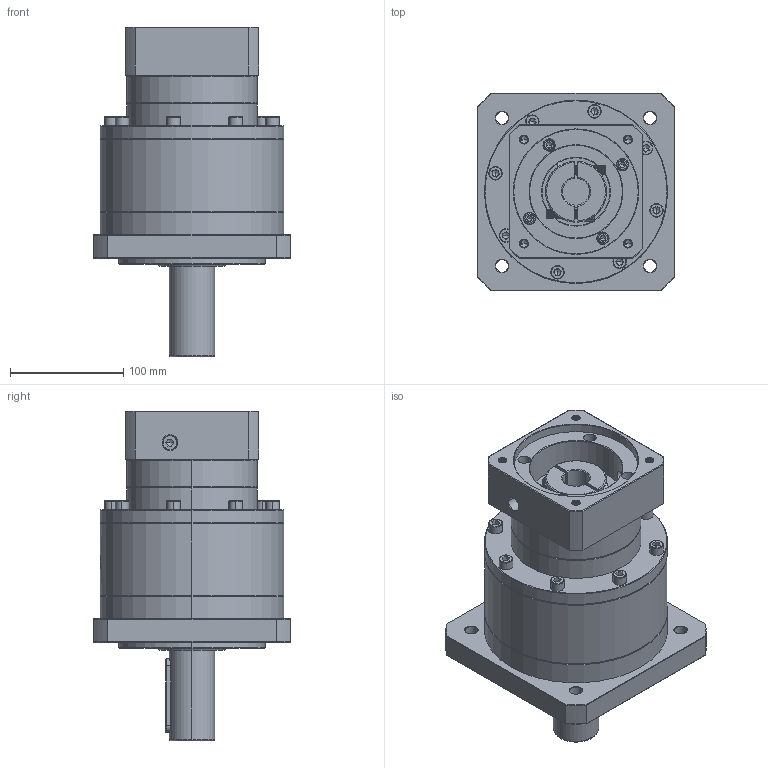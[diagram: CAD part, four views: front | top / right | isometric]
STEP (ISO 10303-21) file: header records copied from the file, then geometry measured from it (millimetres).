
FILE_DESCRIPTION (( 'STEP AP214' ), '1' );
FILE_NAME ('ZF160A-D40-L2-P2-24-110-130-M8.step', '2023-09-03T07:54:29', ( '' ), ( '' ), 'SwSTEP 2.0', 'SolidWorks 2016', '' );
FILE_SCHEMA (( 'AUTOMOTIVE_DESIGN' ));
Length unit declared in the file: millimetre
Products named in the file (1): ZF160A-D40-L2-P2-24-110-130-M8
Bounding box: 175 x 175 x 291.7 mm (x, y, z)
Volume: 3572320.5 mm3; surface area: 265959.1 mm2
Topology: 6 solids, 6 shells, 2426 faces, 6392 edges, 4093 vertices
Faces by surface type: plane 1119, cylinder 487, bspline 405, cone 357, torus 58
Entity records: 131692 total; most frequent: CARTESIAN_POINT 50261, ORIENTED_EDGE 12676, DIRECTION 9649, EDGE_CURVE 6338, VERTEX_POINT 4093, LINE 3375, VECTOR 3375, AXIS2_PLACEMENT_3D 3137
